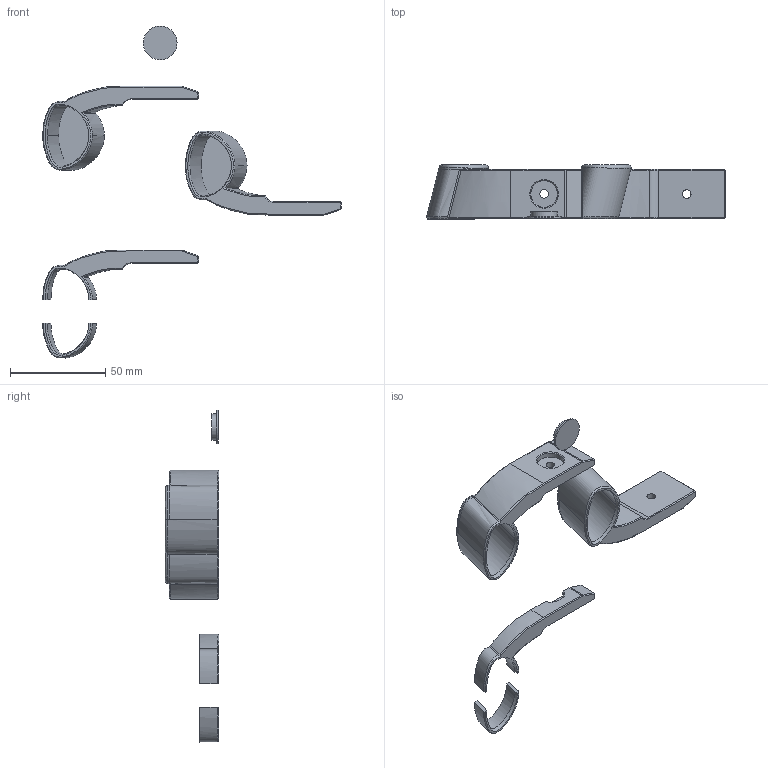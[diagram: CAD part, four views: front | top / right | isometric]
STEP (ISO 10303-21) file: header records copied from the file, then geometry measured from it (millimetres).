
FILE_DESCRIPTION(/* description */ (''),/* implementation_level */ '2;1');
FILE_NAME(/* name */ 'C:/Users/RUSich/Desktop/Ручка холодильнка/Деталь ручки холодильника v3.step',/* time_stamp */ '2018-11-24T17:58:39+05:00',/* author */ ('rusich.06'),/* organization */ (''),/* preprocessor_version */ 'ST-DEVELOPER v17.2',/* originating_system */ 'Autodesk Translation Framework v7.6.0.251',/* authorisation */ '');
FILE_SCHEMA (('AUTOMOTIVE_DESIGN { 1 0 10303 214 3 1 1 }'));
Length unit declared in the file: millimetre
Products named in the file (2): Деталь ручки 
холодильника; Component1
Assembly tree (1 placements, depth 2):
  Деталь ручки 
холодильника
    Component1
Bounding box: 156.83 x 28.28 x 174.37 mm (x, y, z)
Volume: 45663.6 mm3; surface area: 26516.9 mm2
Topology: 5 solids, 5 shells, 218 faces, 610 edges, 408 vertices
Faces by surface type: bspline 123, plane 76, cylinder 11, cone 8
Full cylindrical faces by diameter (mm): 4.5 x2, 13 x1, 13.8 x1, 14 x2, 17.8 x1
Entity records: 18541 total; most frequent: CARTESIAN_POINT 14052, ORIENTED_EDGE 1224, EDGE_CURVE 612, DIRECTION 425, VERTEX_POINT 410, B_SPLINE_CURVE_WITH_KNOTS 377, EDGE_LOOP 228, FACE_OUTER_BOUND 218
